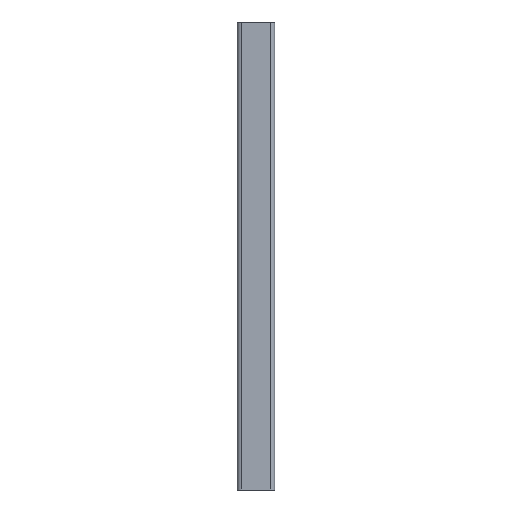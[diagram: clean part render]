
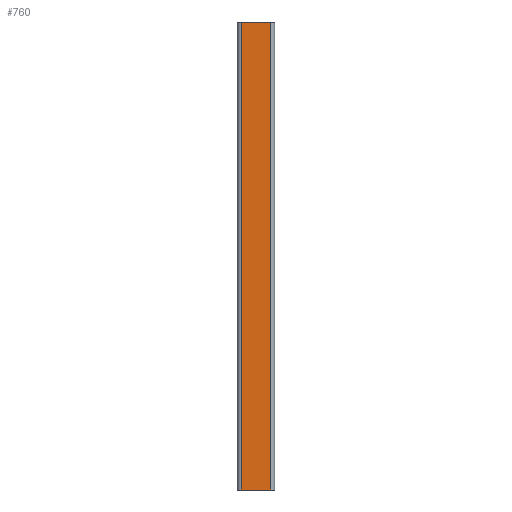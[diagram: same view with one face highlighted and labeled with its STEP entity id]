
A CAD part, front view. The second image highlights one B-rep face of the part: STEP entity #760.
In plain terms, the highlighted planar face has unit normal (0, -1, 0).
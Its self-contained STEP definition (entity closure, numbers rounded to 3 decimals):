
#10 = DIRECTION ( 'NONE',  ( -1., 0., 0. ) ) ;
#32 = CARTESIAN_POINT ( 'NONE',  ( -12.5, 0., 400. ) ) ;
#61 = CARTESIAN_POINT ( 'NONE',  ( -12.5, 0., 0. ) ) ;
#65 = CARTESIAN_POINT ( 'NONE',  ( 12.5, 0., 0. ) ) ;
#66 = EDGE_CURVE ( 'NONE', #603, #237, #777, .T. ) ;
#90 = DIRECTION ( 'NONE',  ( 0., 0., 1. ) ) ;
#124 = ORIENTED_EDGE ( 'NONE', *, *, #66, .T. ) ;
#142 = LINE ( 'NONE', #247, #637 ) ;
#158 = VERTEX_POINT ( 'NONE', #282 ) ;
#167 = FACE_OUTER_BOUND ( 'NONE', #524, .T. ) ;
#229 = PLANE ( 'NONE',  #469 ) ;
#237 = VERTEX_POINT ( 'NONE', #61 ) ;
#247 = CARTESIAN_POINT ( 'NONE',  ( 12.5, 0., 0. ) ) ;
#282 = CARTESIAN_POINT ( 'NONE',  ( 12.5, 0., 0. ) ) ;
#283 = ORIENTED_EDGE ( 'NONE', *, *, #597, .T. ) ;
#288 = CARTESIAN_POINT ( 'NONE',  ( 12.5, 0., 400. ) ) ;
#307 = CARTESIAN_POINT ( 'NONE',  ( 12.5, 0., 400. ) ) ;
#338 = CARTESIAN_POINT ( 'NONE',  ( -12.5, 0., 0. ) ) ;
#370 = VECTOR ( 'NONE', #687, 1000. ) ;
#425 = VECTOR ( 'NONE', #460, 1000. ) ;
#460 = DIRECTION ( 'NONE',  ( 0., 0., -1. ) ) ;
#467 = EDGE_CURVE ( 'NONE', #780, #603, #679, .T. ) ;
#469 = AXIS2_PLACEMENT_3D ( 'NONE', #65, #587, #517 ) ;
#500 = ORIENTED_EDGE ( 'NONE', *, *, #467, .T. ) ;
#517 = DIRECTION ( 'NONE',  ( 0., 0., -1. ) ) ;
#524 = EDGE_LOOP ( 'NONE', ( #595, #283, #500, #124 ) ) ;
#525 = EDGE_CURVE ( 'NONE', #237, #158, #691, .T. ) ;
#587 = DIRECTION ( 'NONE',  ( 0., -1., 0. ) ) ;
#595 = ORIENTED_EDGE ( 'NONE', *, *, #525, .T. ) ;
#597 = EDGE_CURVE ( 'NONE', #158, #780, #142, .T. ) ;
#603 = VERTEX_POINT ( 'NONE', #32 ) ;
#637 = VECTOR ( 'NONE', #90, 1000. ) ;
#679 = LINE ( 'NONE', #307, #776 ) ;
#687 = DIRECTION ( 'NONE',  ( 1., 0., 0. ) ) ;
#691 = LINE ( 'NONE', #697, #370 ) ;
#697 = CARTESIAN_POINT ( 'NONE',  ( 12.5, 0., 0. ) ) ;
#760 = ADVANCED_FACE ( 'NONE', ( #167 ), #229, .T. ) ;
#776 = VECTOR ( 'NONE', #10, 1000. ) ;
#777 = LINE ( 'NONE', #338, #425 ) ;
#780 = VERTEX_POINT ( 'NONE', #288 ) ;
